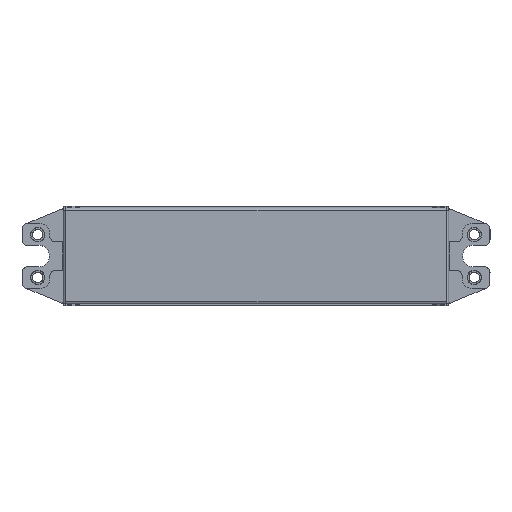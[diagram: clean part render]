
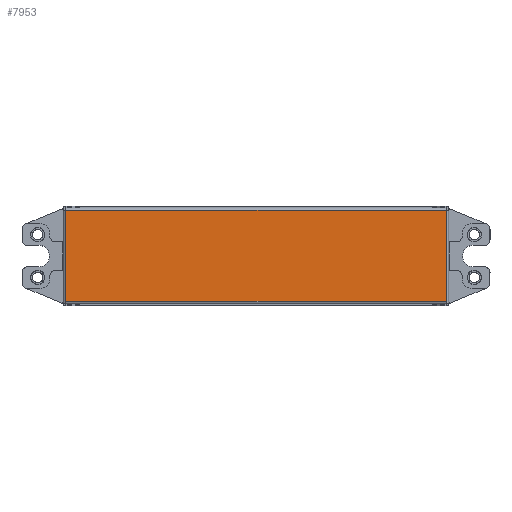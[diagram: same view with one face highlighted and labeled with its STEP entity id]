
A CAD part, top view. The second image highlights one B-rep face of the part: STEP entity #7953.
In plain terms, the highlighted planar face has unit normal (0, 0, 1).
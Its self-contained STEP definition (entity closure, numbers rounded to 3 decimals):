
#4799 = DIRECTION ( 'NONE',  ( -1., 0., 0. ) ) ;
#4800 = VECTOR ( 'NONE', #4799, 1000. ) ;
#4809 = CARTESIAN_POINT ( 'NONE',  ( 66.7, 15.95, 0. ) ) ;
#4810 = LINE ( 'NONE', #4809, #4800 ) ;
#5241 = CARTESIAN_POINT ( 'NONE',  ( -66.7, -15.95, 0. ) ) ;
#5520 = DIRECTION ( 'NONE',  ( 0., 1., 0. ) ) ;
#5526 = CARTESIAN_POINT ( 'NONE',  ( 66.7, -16.75, 0. ) ) ;
#5527 = LINE ( 'NONE', #5526, #5541 ) ;
#5541 = VECTOR ( 'NONE', #5520, 1000. ) ;
#5829 = DIRECTION ( 'NONE',  ( 1., 0., 0. ) ) ;
#5833 = PLANE ( 'NONE',  #5857 ) ;
#5835 = DIRECTION ( 'NONE',  ( 0., 0., 1. ) ) ;
#5836 = CARTESIAN_POINT ( 'NONE',  ( -67.5, -16.75, 0. ) ) ;
#5837 = FACE_OUTER_BOUND ( 'NONE', #7947, .T. ) ;
#5842 = DIRECTION ( 'NONE',  ( 0., -1., 0. ) ) ;
#5843 = VECTOR ( 'NONE', #5842, 1000. ) ;
#5844 = CARTESIAN_POINT ( 'NONE',  ( 66.7, 15.95, 0. ) ) ;
#5845 = CARTESIAN_POINT ( 'NONE',  ( -66.7, 15.95, 0. ) ) ;
#5849 = CARTESIAN_POINT ( 'NONE',  ( -66.7, 16.75, 0. ) ) ;
#5851 = DIRECTION ( 'NONE',  ( 1., 0., 0. ) ) ;
#5852 = VECTOR ( 'NONE', #5851, 1000. ) ;
#5853 = CARTESIAN_POINT ( 'NONE',  ( -66.7, -15.95, 0. ) ) ;
#5854 = LINE ( 'NONE', #5853, #5852 ) ;
#5855 = LINE ( 'NONE', #5849, #5843 ) ;
#5857 = AXIS2_PLACEMENT_3D ( 'NONE', #5836, #5835, #5829 ) ;
#5902 = CARTESIAN_POINT ( 'NONE',  ( 66.7, -15.95, 0. ) ) ;
#7761 = VERTEX_POINT ( 'NONE', #5241 ) ;
#7798 = ORIENTED_EDGE ( 'NONE', *, *, #7942, .T. ) ;
#7799 = ORIENTED_EDGE ( 'NONE', *, *, #7943, .T. ) ;
#7801 = EDGE_CURVE ( 'NONE', #7992, #7949, #5527, .T. ) ;
#7840 = ORIENTED_EDGE ( 'NONE', *, *, #7944, .T. ) ;
#7841 = ORIENTED_EDGE ( 'NONE', *, *, #7801, .T. ) ;
#7942 = EDGE_CURVE ( 'NONE', #7949, #7951, #4810, .T. ) ;
#7943 = EDGE_CURVE ( 'NONE', #7761, #7992, #5854, .T. ) ;
#7944 = EDGE_CURVE ( 'NONE', #7951, #7761, #5855, .T. ) ;
#7947 = EDGE_LOOP ( 'NONE', ( #7840, #7799, #7841, #7798 ) ) ;
#7949 = VERTEX_POINT ( 'NONE', #5844 ) ;
#7951 = VERTEX_POINT ( 'NONE', #5845 ) ;
#7953 = ADVANCED_FACE ( 'NONE', ( #5837 ), #5833, .T. ) ;
#7992 = VERTEX_POINT ( 'NONE', #5902 ) ;
